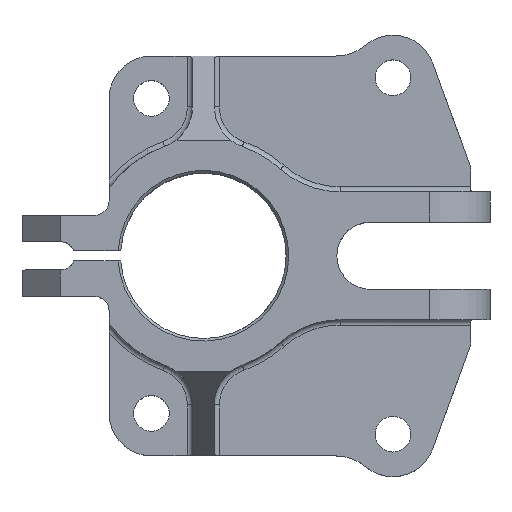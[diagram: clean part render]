
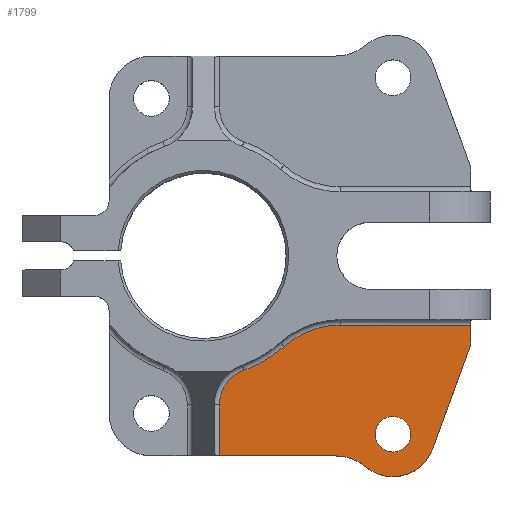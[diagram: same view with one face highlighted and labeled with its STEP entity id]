
A CAD part, top view. The second image highlights one B-rep face of the part: STEP entity #1799.
In plain terms, the highlighted planar face has unit normal (0, 0, 1).
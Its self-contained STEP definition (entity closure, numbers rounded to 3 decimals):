
#29=FACE_BOUND('',#274,.T.);
#72=PLANE('',#2003);
#171=FACE_OUTER_BOUND('',#273,.T.);
#273=EDGE_LOOP('',(#1478,#1479,#1480,#1481,#1482,#1483,#1484,#1485,#1486,
#1487));
#274=EDGE_LOOP('',(#1488));
#365=LINE('',#2909,#512);
#367=LINE('',#2935,#514);
#427=LINE('',#3188,#574);
#428=LINE('',#3190,#575);
#429=LINE('',#3191,#576);
#512=VECTOR('',#2274,10.);
#514=VECTOR('',#2306,10.);
#574=VECTOR('',#2464,10.);
#575=VECTOR('',#2465,10.);
#576=VECTOR('',#2466,10.);
#625=CIRCLE('',#1869,3.378);
#664=CIRCLE('',#1943,16.);
#667=CIRCLE('',#1947,23.05);
#670=CIRCLE('',#1951,7.);
#679=CIRCLE('',#1971,9.);
#681=CIRCLE('',#1974,8.06);
#733=VERTEX_POINT('',#2700);
#786=VERTEX_POINT('',#2906);
#787=VERTEX_POINT('',#2908);
#790=VERTEX_POINT('',#2915);
#792=VERTEX_POINT('',#2921);
#794=VERTEX_POINT('',#2927);
#795=VERTEX_POINT('',#2932);
#815=VERTEX_POINT('',#3029);
#816=VERTEX_POINT('',#3031);
#818=VERTEX_POINT('',#3037);
#864=VERTEX_POINT('',#3189);
#917=EDGE_CURVE('',#733,#733,#625,.T.);
#992=EDGE_CURVE('',#786,#787,#365,.T.);
#996=EDGE_CURVE('',#790,#786,#664,.T.);
#999=EDGE_CURVE('',#792,#790,#667,.T.);
#1002=EDGE_CURVE('',#794,#792,#670,.T.);
#1005=EDGE_CURVE('',#795,#794,#367,.T.);
#1034=EDGE_CURVE('',#815,#816,#679,.T.);
#1038=EDGE_CURVE('',#815,#818,#681,.T.);
#1104=EDGE_CURVE('',#795,#816,#427,.T.);
#1105=EDGE_CURVE('',#818,#864,#428,.T.);
#1106=EDGE_CURVE('',#787,#864,#429,.T.);
#1478=ORIENTED_EDGE('',*,*,#1005,.F.);
#1479=ORIENTED_EDGE('',*,*,#1104,.T.);
#1480=ORIENTED_EDGE('',*,*,#1034,.F.);
#1481=ORIENTED_EDGE('',*,*,#1038,.T.);
#1482=ORIENTED_EDGE('',*,*,#1105,.T.);
#1483=ORIENTED_EDGE('',*,*,#1106,.F.);
#1484=ORIENTED_EDGE('',*,*,#992,.F.);
#1485=ORIENTED_EDGE('',*,*,#996,.F.);
#1486=ORIENTED_EDGE('',*,*,#999,.F.);
#1487=ORIENTED_EDGE('',*,*,#1002,.F.);
#1488=ORIENTED_EDGE('',*,*,#917,.T.);
#1799=ADVANCED_FACE('',(#171,#29),#72,.T.);
#1869=AXIS2_PLACEMENT_3D('',#2702,#2106,#2107);
#1943=AXIS2_PLACEMENT_3D('',#2917,#2282,#2283);
#1947=AXIS2_PLACEMENT_3D('',#2923,#2290,#2291);
#1951=AXIS2_PLACEMENT_3D('',#2929,#2298,#2299);
#1971=AXIS2_PLACEMENT_3D('',#3032,#2356,#2357);
#1974=AXIS2_PLACEMENT_3D('',#3039,#2364,#2365);
#2003=AXIS2_PLACEMENT_3D('',#3187,#2462,#2463);
#2106=DIRECTION('center_axis',(0.,0.,-1.));
#2107=DIRECTION('ref_axis',(1.,0.,0.));
#2274=DIRECTION('',(1.,0.,0.));
#2282=DIRECTION('center_axis',(0.,0.,-1.));
#2283=DIRECTION('ref_axis',(-0.356,0.934,0.));
#2290=DIRECTION('center_axis',(0.,0.,1.));
#2291=DIRECTION('ref_axis',(0.509,-0.861,0.));
#2298=DIRECTION('center_axis',(0.,0.,-1.));
#2299=DIRECTION('ref_axis',(-0.817,0.577,0.));
#2306=DIRECTION('',(0.,1.,0.));
#2356=DIRECTION('center_axis',(0.,0.,1.));
#2357=DIRECTION('ref_axis',(0.34,0.94,0.));
#2364=DIRECTION('center_axis',(0.,0.,1.));
#2365=DIRECTION('ref_axis',(1.,0.,0.));
#2462=DIRECTION('center_axis',(0.,0.,1.));
#2463=DIRECTION('ref_axis',(1.,0.,0.));
#2464=DIRECTION('',(1.,0.,0.));
#2465=DIRECTION('',(0.342,0.94,0.));
#2466=DIRECTION('',(0.,-1.,0.));
#2700=CARTESIAN_POINT('',(32.662,-33.89,8.1));
#2702=CARTESIAN_POINT('Origin',(36.04,-33.89,8.1));
#2906=CARTESIAN_POINT('',(25.984,-13.15,8.1));
#2908=CARTESIAN_POINT('',(50.786,-13.15,8.1));
#2909=CARTESIAN_POINT('',(16.423,-13.15,8.1));
#2915=CARTESIAN_POINT('',(15.338,-17.206,8.1));
#2917=CARTESIAN_POINT('Origin',(25.984,-29.15,8.1));
#2921=CARTESIAN_POINT('',(7.709,-21.723,8.1));
#2923=CARTESIAN_POINT('Origin',(0.,0.,8.1));
#2927=CARTESIAN_POINT('',(3.05,-28.32,8.1));
#2929=CARTESIAN_POINT('Origin',(10.05,-28.32,8.1));
#2932=CARTESIAN_POINT('',(3.05,-38.,8.1));
#2935=CARTESIAN_POINT('',(3.05,-19.,8.1));
#3029=CARTESIAN_POINT('',(30.883,-40.084,8.1));
#3031=CARTESIAN_POINT('',(25.124,-38.,8.1));
#3032=CARTESIAN_POINT('Origin',(25.124,-47.,8.1));
#3037=CARTESIAN_POINT('',(43.614,-36.647,8.1));
#3039=CARTESIAN_POINT('Origin',(36.04,-33.89,8.1));
#3187=CARTESIAN_POINT('Origin',(14.445,0.,8.1));
#3188=CARTESIAN_POINT('',(-17.93,-38.,8.1));
#3189=CARTESIAN_POINT('',(50.786,-16.942,8.1));
#3190=CARTESIAN_POINT('',(48.57,-23.031,8.1));
#3191=CARTESIAN_POINT('',(50.786,-12.15,8.1));
